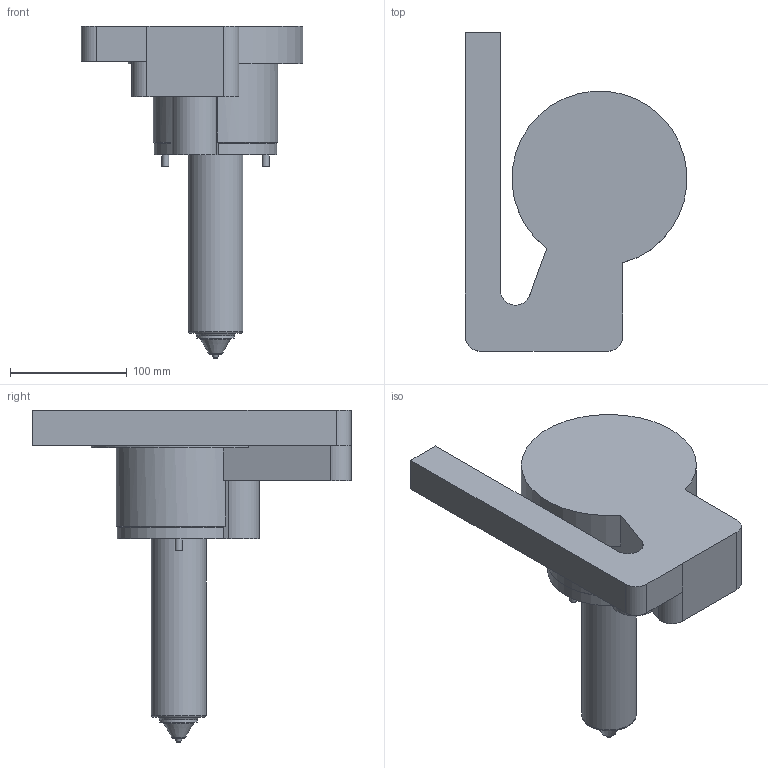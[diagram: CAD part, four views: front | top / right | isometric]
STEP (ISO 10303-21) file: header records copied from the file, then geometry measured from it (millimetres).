
FILE_DESCRIPTION( ( 'STEP AP214' ), '1' );
FILE_NAME( 'S:/PROIECTE_YUDO_2009_dupa_1.07.2009/PROIECTE YUDO 3D 01.07.2009/SAS/YUEU09-SAS32VC252_4/YUEU09-SAS32VC252_cutout.step', '2009-07-02T11:43:14', ( ' ' ), ( ' ' ), 'XStep 1.0', ' ', ' ' );
FILE_SCHEMA( ( 'automotive_design' ) );
Length unit declared in the file: millimetre
Products named in the file (1): 1
Bounding box: 189.74 x 273 x 284.5 mm (x, y, z)
Volume: 2264243.2 mm3; surface area: 161033 mm2
Topology: 1 solids, 1 shells, 40 faces, 90 edges, 58 vertices
Faces by surface type: plane 20, cylinder 14, cone 4, torus 2
Full cylindrical faces by diameter (mm): 4 x1, 6 x2, 26 x1, 32 x1, 47 x1
Entity records: 1404 total; most frequent: DIRECTION 194, CARTESIAN_POINT 184, ORIENTED_EDGE 158, EDGE_CURVE 79, AXIS2_PLACEMENT_3D 76, VERTEX_POINT 58, EDGE_LOOP 57, FACE_OUTER_BOUND 48
